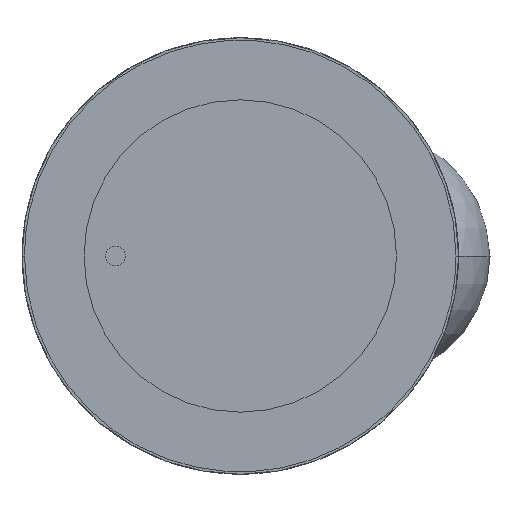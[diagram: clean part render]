
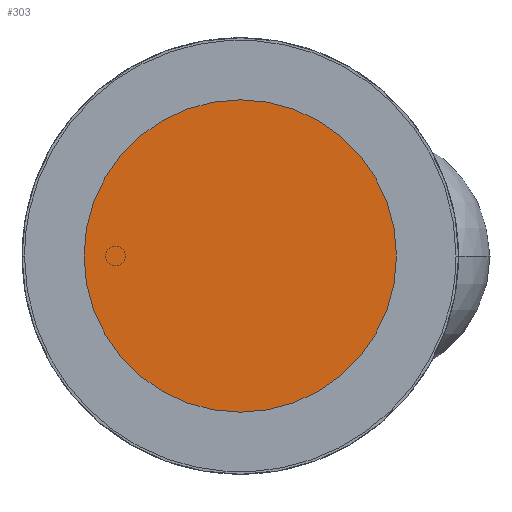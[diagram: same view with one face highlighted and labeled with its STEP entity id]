
A CAD part, front view. The second image highlights one B-rep face of the part: STEP entity #303.
In plain terms, the highlighted planar face has unit normal (0, -1, 0).
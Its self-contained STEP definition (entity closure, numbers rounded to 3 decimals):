
#10 = ORIENTED_EDGE ( 'NONE', *, *, #147, .T. ) ;
#46 = AXIS2_PLACEMENT_3D ( 'NONE', #196, #1643, #664 ) ;
#107 = AXIS2_PLACEMENT_3D ( 'NONE', #1577, #610, #1292 ) ;
#147 = EDGE_CURVE ( 'NONE', #1748, #1606, #911, .T. ) ;
#196 = CARTESIAN_POINT ( 'NONE',  ( -175.989, 0., -19.935 ) ) ;
#205 = DIRECTION ( 'NONE',  ( 0., 0., 1. ) ) ;
#303 = ADVANCED_FACE ( 'NONE', ( #1308 ), #1440, .T. ) ;
#469 = CARTESIAN_POINT ( 'NONE',  ( 0., 0., 0. ) ) ;
#508 = CARTESIAN_POINT ( 'NONE',  ( 0., 0., 125.239 ) ) ;
#557 = EDGE_LOOP ( 'NONE', ( #667, #10 ) ) ;
#610 = DIRECTION ( 'NONE',  ( 0., -1., 0. ) ) ;
#664 = DIRECTION ( 'NONE',  ( -1., 0., 0. ) ) ;
#667 = ORIENTED_EDGE ( 'NONE', *, *, #1159, .T. ) ;
#911 = CIRCLE ( 'NONE', #1753, 125.239 ) ;
#979 = CIRCLE ( 'NONE', #107, 125.239 ) ;
#1027 = DIRECTION ( 'NONE',  ( 0., -1., 0. ) ) ;
#1159 = EDGE_CURVE ( 'NONE', #1606, #1748, #979, .T. ) ;
#1292 = DIRECTION ( 'NONE',  ( 0., 0., 1. ) ) ;
#1308 = FACE_OUTER_BOUND ( 'NONE', #557, .T. ) ;
#1440 = PLANE ( 'NONE',  #46 ) ;
#1499 = CARTESIAN_POINT ( 'NONE',  ( 0., 0., -125.239 ) ) ;
#1577 = CARTESIAN_POINT ( 'NONE',  ( 0., 0., 0. ) ) ;
#1606 = VERTEX_POINT ( 'NONE', #508 ) ;
#1643 = DIRECTION ( 'NONE',  ( 0., -1., 0. ) ) ;
#1748 = VERTEX_POINT ( 'NONE', #1499 ) ;
#1753 = AXIS2_PLACEMENT_3D ( 'NONE', #469, #1027, #205 ) ;
